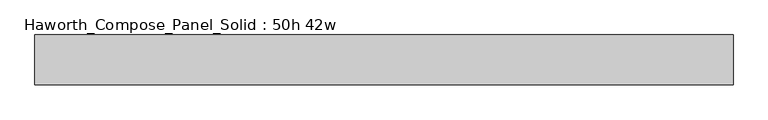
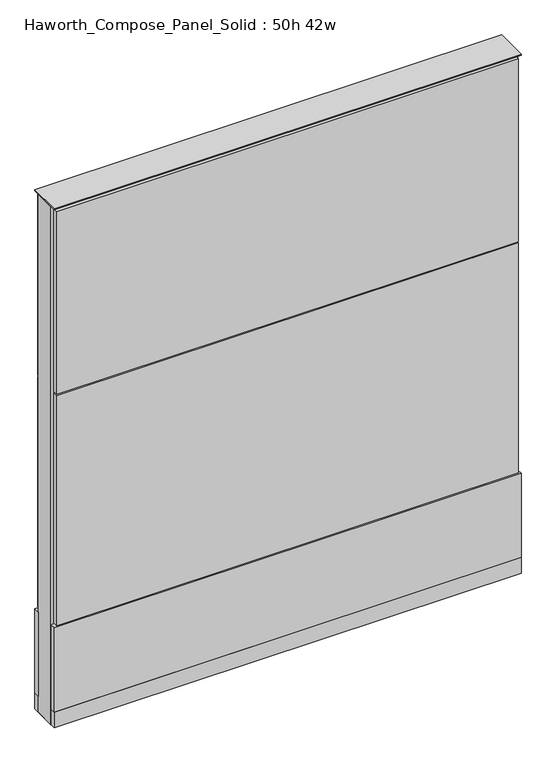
"""IFC4 building model written with IfcOpenShell, lengths in millimetres: furniture geometry, Haworth_Compose_Panel_Solid : 50h 42w."""

from ifc_helpers import new_model, si_unit, point, frame, frame_2d, origin, origin_with_axes, place, context, project, spatial, polyline, circle_curve, trimmed, segment, composite_curve, outline, extrude, source, transform, mapped, element, save


def haworth_compose_panel_solid_50h_42w_92178e70(model_context):
    return source(origin(), model_context, "Body", "SweptSolid", [
        extrude(outline(composite_curve([segment(trimmed(circle_curve(frame_2d((-454.7597098, 0.0)), 12.7), [point((-467.4597098, 0.0))], [point((-442.0597098, 0.0))], False, "CARTESIAN"), True, "CONTINUOUS"), segment(trimmed(circle_curve(frame_2d((-454.7597098, 0.0)), 12.7), [point((-442.0597098, 0.0))], [point((-467.4597098, 0.0))], False, "CARTESIAN"), True, "CONTINUOUS")], self_intersect=False)), origin_with_axes(), (0.0, 0.0, 1.0), 12.7),
        extrude(outline(composite_curve([segment(trimmed(circle_curve(frame_2d((459.6402902, 0.0)), 12.7), [point((446.9402902, 0.0))], [point((472.3402902, 0.0))], False, "CARTESIAN"), True, "CONTINUOUS"), segment(trimmed(circle_curve(frame_2d((459.6402902, 0.0)), 12.7), [point((472.3402902, 0.0))], [point((446.9402902, 0.0))], False, "CARTESIAN"), True, "CONTINUOUS")], self_intersect=False)), origin_with_axes(), (0.0, 0.0, 1.0), 12.7),
        extrude(outline(polyline([(529.4902902, 38.1), (529.4902902, 25.4), (-524.6097098, 25.4), (-524.6097098, 38.1), (529.4902902, 38.1)])), frame((0.0, 0.0, 815.975), z_axis=(0.0, 0.0, 1.0), x_axis=(1.0, 0.0, 0.0)), (0.0, 0.0, 1.0), 441.325),
        extrude(outline(polyline([(529.4902902, 38.1), (529.4902902, 25.4), (-524.6097098, 25.4), (-524.6097098, 38.1), (529.4902902, 38.1)])), frame((0.0, 0.0, 257.175), z_axis=(0.0, 0.0, 1.0), x_axis=(1.0, 0.0, 0.0)), (0.0, 0.0, 1.0), 555.625),
        extrude(outline(polyline([(535.8402902, 38.1), (535.8402902, 25.4), (-530.9597098, 25.4), (-530.9597098, 38.1), (535.8402902, 38.1)])), frame((0.0, 0.0, 50.8), z_axis=(0.0, 0.0, 1.0), x_axis=(1.0, 0.0, 0.0)), (0.0, 0.0, 1.0), 203.2),
        extrude(outline(polyline([(535.8402902, -38.1), (-530.9597098, -38.1), (-530.9597098, -25.4), (535.8402902, -25.4), (535.8402902, -38.1)])), frame((0.0, 0.0, 50.8), z_axis=(0.0, 0.0, 1.0), x_axis=(1.0, 0.0, 0.0)), (0.0, 0.0, 1.0), 203.2),
        extrude(outline(polyline([(529.4902902, -38.1), (-524.6097098, -38.1), (-524.6097098, -25.4), (529.4902902, -25.4), (529.4902902, -38.1)])), frame((0.0, 0.0, 815.975), z_axis=(0.0, 0.0, 1.0), x_axis=(1.0, 0.0, 0.0)), (0.0, 0.0, 1.0), 441.325),
        extrude(outline(polyline([(529.4902902, -38.1), (-524.6097098, -38.1), (-524.6097098, -25.4), (529.4902902, -25.4), (529.4902902, -38.1)])), frame((0.0, 0.0, 257.175), z_axis=(0.0, 0.0, 1.0), x_axis=(1.0, 0.0, 0.0)), (0.0, 0.0, 1.0), 555.625),
        extrude(outline(polyline([(535.8402902, 25.4), (535.8402902, -25.4), (-530.9597098, -25.4), (-530.9597098, 25.4), (535.8402902, 25.4)])), frame((0.0, 0.0, 12.7), z_axis=(0.0, 0.0, 1.0), x_axis=(1.0, 0.0, 0.0)), (0.0, 0.0, 1.0), 1250.95),
        extrude(outline(polyline([(-530.9597098, -38.1), (-530.9597098, 38.1), (535.8402902, 38.1), (535.8402902, -38.1), (-530.9597098, -38.1)])), frame((0.0, 0.0, 12.7), z_axis=(0.0, 0.0, 1.0), x_axis=(1.0, 0.0, 0.0)), (0.0, 0.0, 1.0), 38.1),
        extrude(outline(polyline([(-530.9597098, -38.1), (-530.9597098, 38.1), (535.8402902, 38.1), (535.8402902, -38.1), (-530.9597098, -38.1)])), frame((0.0, 0.0, 1263.65), z_axis=(0.0, 0.0, 1.0), x_axis=(1.0, 0.0, 0.0)), (0.0, 0.0, 1.0), 3.175),
    ])


if __name__ == "__main__":
    model = new_model("IFC4")
    model_context = context("Model", 3, world=origin())
    ifc_project = project(units=[si_unit("LENGTHUNIT", "METRE", prefix="MILLI")], contexts=[model_context])
    site = spatial("IfcSite", under=ifc_project)
    building = spatial("IfcBuilding", under=site)
    placement = place(None, origin())
    haworth_compose_panel_solid_50h_42w_shape = haworth_compose_panel_solid_50h_42w_92178e70(model_context)
    element("IfcFurniture", 1, ObjectType="Haworth_Compose_Panel_Solid : 50h 42w", at=placement, inside=building, context=model_context, shape_type="MappedRepresentation", body=[
        mapped(haworth_compose_panel_solid_50h_42w_shape, transform((0.0, 0.0, 0.0), x_axis=(1.0, 0.0, 0.0), y_axis=(0.0, 1.0, 0.0), z_axis=(0.0, 0.0, 1.0))),
    ])
    save(model, "model.ifc")
